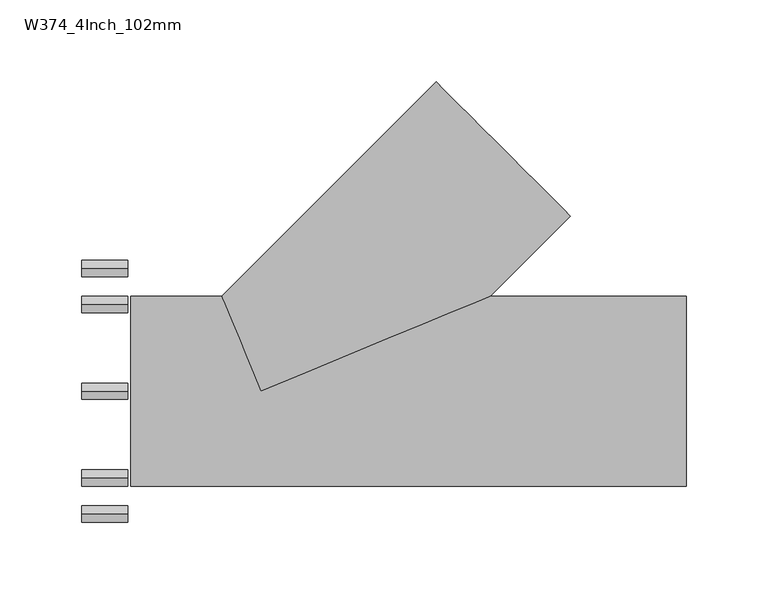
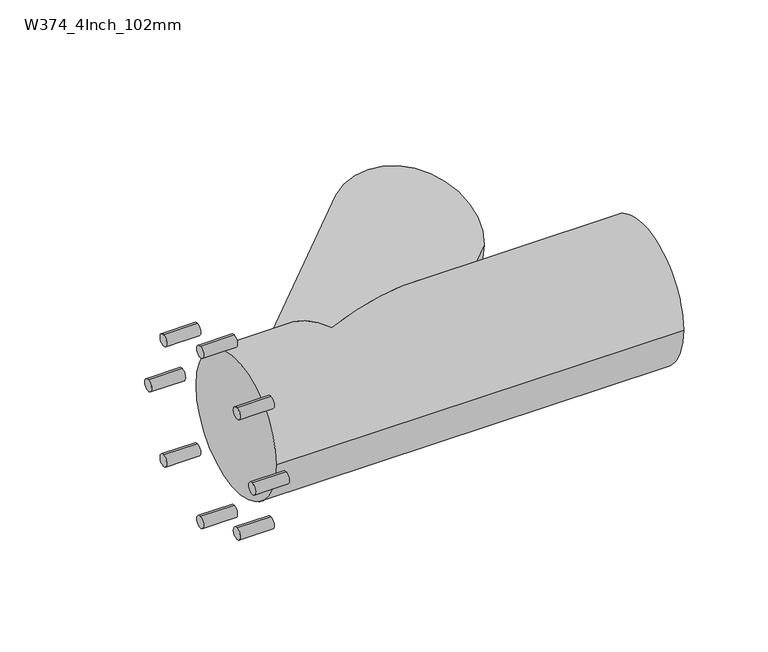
"""IFC4 building model written with IfcOpenShell, lengths in millimetres: pipe fitting geometry, Durapipe_PipeFitting_VulcatheneMechanical_SingleWye_W37 : W374_4Inch_102mm."""

from ifc_helpers import new_model, si_unit, point, frame, frame_2d, origin, place, context, project, spatial, circle_curve, ellipse_curve, trimmed, segment, composite_curve, outline, extrude, source, transform, mapped, element, save
from ifc_brep_helpers import plane_surface, cylinder_surface, advanced_brep


def w374_4inch_102mm_cdc88c89(model_context):
    return source(origin(), model_context, "Body", "SolidModel", [
        extrude(outline(composite_curve([segment(trimmed(circle_curve(frame_2d((-75.0, 0.0)), 5.0), [point((-75.0, -5.0))], [point((-75.0, 5.0))], False, "CARTESIAN"), True, "CONTINUOUS"), segment(trimmed(circle_curve(frame_2d((-75.0, 0.0)), 5.0), [point((-75.0, 5.0))], [point((-75.0, -5.0))], False, "CARTESIAN"), True, "CONTINUOUS")], self_intersect=False)), frame((-109.5, 0.0, 0.0), z_axis=(1.0, 0.0, 0.0), x_axis=(0.0, 1.0, 0.0)), (0.0, 0.0, 1.0), 28.2),
        extrude(outline(composite_curve([segment(trimmed(circle_curve(frame_2d((-53.0330086, 53.0330086)), 5.0), [point((-53.0330086, 48.0330086))], [point((-53.0330086, 58.0330086))], False, "CARTESIAN"), True, "CONTINUOUS"), segment(trimmed(circle_curve(frame_2d((-53.0330086, 53.0330086)), 5.0), [point((-53.0330086, 58.0330086))], [point((-53.0330086, 48.0330086))], False, "CARTESIAN"), True, "CONTINUOUS")], self_intersect=False)), frame((-109.5, 0.0, 0.0), z_axis=(1.0, 0.0, 0.0), x_axis=(0.0, 1.0, 0.0)), (0.0, 0.0, 1.0), 28.2),
        extrude(outline(composite_curve([segment(trimmed(circle_curve(frame_2d((0.0, 75.0)), 5.0), [point((0.0, 70.0))], [point((0.0, 80.0))], False, "CARTESIAN"), True, "CONTINUOUS"), segment(trimmed(circle_curve(frame_2d((0.0, 75.0)), 5.0), [point((0.0, 80.0))], [point((0.0, 70.0))], False, "CARTESIAN"), True, "CONTINUOUS")], self_intersect=False)), frame((-109.5, 0.0, 0.0), z_axis=(1.0, 0.0, 0.0), x_axis=(0.0, 1.0, 0.0)), (0.0, 0.0, 1.0), 28.2),
        extrude(outline(composite_curve([segment(trimmed(circle_curve(frame_2d((53.0330086, 53.0330086)), 5.0), [point((53.0330086, 48.0330086))], [point((53.0330086, 58.0330086))], False, "CARTESIAN"), True, "CONTINUOUS"), segment(trimmed(circle_curve(frame_2d((53.0330086, 53.0330086)), 5.0), [point((53.0330086, 58.0330086))], [point((53.0330086, 48.0330086))], False, "CARTESIAN"), True, "CONTINUOUS")], self_intersect=False)), frame((-109.5, 0.0, 0.0), z_axis=(1.0, 0.0, 0.0), x_axis=(0.0, 1.0, 0.0)), (0.0, 0.0, 1.0), 28.2),
        extrude(outline(composite_curve([segment(trimmed(circle_curve(frame_2d((75.0, 0.0)), 5.0), [point((75.0, -5.0))], [point((75.0, 5.0))], False, "CARTESIAN"), True, "CONTINUOUS"), segment(trimmed(circle_curve(frame_2d((75.0, 0.0)), 5.0), [point((75.0, 5.0))], [point((75.0, -5.0))], False, "CARTESIAN"), True, "CONTINUOUS")], self_intersect=False)), frame((-109.5, 0.0, 0.0), z_axis=(1.0, 0.0, 0.0), x_axis=(0.0, 1.0, 0.0)), (0.0, 0.0, 1.0), 28.2),
        extrude(outline(composite_curve([segment(trimmed(circle_curve(frame_2d((53.0330086, -53.0330086)), 5.0), [point((53.0330086, -58.0330086))], [point((53.0330086, -48.0330086))], False, "CARTESIAN"), True, "CONTINUOUS"), segment(trimmed(circle_curve(frame_2d((53.0330086, -53.0330086)), 5.0), [point((53.0330086, -48.0330086))], [point((53.0330086, -58.0330086))], False, "CARTESIAN"), True, "CONTINUOUS")], self_intersect=False)), frame((-109.5, 0.0, 0.0), z_axis=(1.0, 0.0, 0.0), x_axis=(0.0, 1.0, 0.0)), (0.0, 0.0, 1.0), 28.2),
        extrude(outline(composite_curve([segment(trimmed(circle_curve(frame_2d((0.0, -75.0)), 5.0), [point((0.0, -80.0))], [point((0.0, -70.0))], False, "CARTESIAN"), True, "CONTINUOUS"), segment(trimmed(circle_curve(frame_2d((0.0, -75.0)), 5.0), [point((0.0, -70.0))], [point((0.0, -80.0))], False, "CARTESIAN"), True, "CONTINUOUS")], self_intersect=False)), frame((-109.5, 0.0, 0.0), z_axis=(1.0, 0.0, 0.0), x_axis=(0.0, 1.0, 0.0)), (0.0, 0.0, 1.0), 28.2),
        extrude(outline(composite_curve([segment(trimmed(circle_curve(frame_2d((-53.0330086, -53.0330086)), 5.0), [point((-53.0330086, -58.0330086))], [point((-53.0330086, -48.0330086))], False, "CARTESIAN"), True, "CONTINUOUS"), segment(trimmed(circle_curve(frame_2d((-53.0330086, -53.0330086)), 5.0), [point((-53.0330086, -48.0330086))], [point((-53.0330086, -58.0330086))], False, "CARTESIAN"), True, "CONTINUOUS")], self_intersect=False)), frame((-109.5, 0.0, 0.0), z_axis=(1.0, 0.0, 0.0), x_axis=(0.0, 1.0, 0.0)), (0.0, 0.0, 1.0), 28.2),
        advanced_brep(
        [(-79.5, 58.0, 0.0), (-79.5, -58.0, 0.0), (259.9, 58.0, 0.0), (259.9, -58.0, 0.0), (140.0243866, 58.0, 0.0), (0.0, 0.0, 58.0), (-24.0243866, 58.0, 0.0), (0.0, 0.0, -58.0), (107.0559667, 189.0803533, 0.0), (189.0803533, 107.0559667, 0.0)],
        [
            (0, 1, circle_curve(frame((-79.5, 0.0, 0.0), z_axis=(-1.0, 0.0, 0.0), x_axis=(0.0, -1.0, 0.0)), 58.0)),
            (1, 0, circle_curve(frame((-79.5, 0.0, 0.0), z_axis=(-1.0, 0.0, 0.0), x_axis=(0.0, -1.0, 0.0)), 58.0)),
            (2, 3, circle_curve(frame((259.9, 0.0, 0.0), z_axis=(1.0, 0.0, 0.0), x_axis=(0.0, -1.0, 0.0)), 58.0)),
            (3, 2, circle_curve(frame((259.9, 0.0, 0.0), z_axis=(1.0, 0.0, 0.0), x_axis=(0.0, -1.0, 0.0)), 58.0)),
            (1, 3),
            (2, 4),
            (4, 5, ellipse_curve(frame((0.0, 0.0, 0.0), z_axis=(0.38268343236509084, -0.9238795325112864, 0.0), x_axis=(-0.9238795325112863, -0.3826834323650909, 0.0)), 151.5613039, 58.0)),
            (5, 6, ellipse_curve(frame((0.0, 0.0, 0.0), z_axis=(-0.9238795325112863, -0.38268343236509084, 0.0), x_axis=(-0.38268343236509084, 0.9238795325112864, 0.0)), 62.7787476, 58.0)),
            (6, 0),
            (6, 7, ellipse_curve(frame((0.0, 0.0, 0.0), z_axis=(-0.9238795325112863, -0.38268343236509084, 0.0), x_axis=(-0.38268343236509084, 0.9238795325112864, 0.0)), 62.7787476, 58.0)),
            (7, 4, ellipse_curve(frame((0.0, 0.0, 0.0), z_axis=(0.38268343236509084, -0.9238795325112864, 0.0), x_axis=(-0.9238795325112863, -0.3826834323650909, 0.0)), 151.5613039, 58.0)),
            (8, 9, circle_curve(frame((148.06816, 148.06816, 0.0), z_axis=(0.7071067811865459, 0.7071067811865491, 0.0), x_axis=(0.7071067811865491, -0.7071067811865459, 0.0)), 58.0)),
            (9, 8, circle_curve(frame((148.06816, 148.06816, 0.0), z_axis=(0.7071067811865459, 0.7071067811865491, 0.0), x_axis=(0.7071067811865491, -0.7071067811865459, 0.0)), 58.0)),
            (8, 6),
            (4, 9),
        ],
        [
            plane_surface(frame((-79.5, 0.0, 0.0), z_axis=(-1.0, 0.0, 0.0), x_axis=(0.0, 0.0, 1.0))),
            plane_surface(frame((259.9, 0.0, 0.0), z_axis=(1.0, 0.0, 0.0), x_axis=(0.0, 0.0, 1.0))),
            cylinder_surface(frame((-79.5, 0.0, 0.0), z_axis=(-1.0, 0.0, 0.0), x_axis=(0.0, -1.0, 0.0)), 58.0),
            plane_surface(frame((148.06816, 148.06816, 0.0), z_axis=(0.7071067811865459, 0.7071067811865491, 0.0), x_axis=(0.0, 0.0, 1.0))),
            cylinder_surface(frame((0.0, 0.0, 0.0), z_axis=(-0.7071067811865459, -0.7071067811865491, 0.0), x_axis=(0.7071067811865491, -0.7071067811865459, 0.0)), 58.0),
        ],
        [
            (0, [[1, 2]]),
            (1, [[3, 4]]),
            (2, [[5, -3, 6, 7, 8, 9, -2]]),
            (2, [[-9, 10, 11, -6, -4, -5, -1]]),
            (3, [[12, 13]]),
            (4, [[14, -8, -7, 15, -12]]),
            (4, [[-15, -11, -10, -14, -13]]),
        ],
    ),
    ])


if __name__ == "__main__":
    model = new_model("IFC4")
    model_context = context("Model", 3, world=origin())
    ifc_project = project(units=[si_unit("LENGTHUNIT", "METRE", prefix="MILLI")], contexts=[model_context])
    site = spatial("IfcSite", under=ifc_project)
    building = spatial("IfcBuilding", under=site)
    placement = place(None, origin())
    w374_4inch_102mm_shape = w374_4inch_102mm_cdc88c89(model_context)
    element("IfcPipeFitting", 1, ObjectType="Durapipe_PipeFitting_VulcatheneMechanical_SingleWye_W37 : W374_4Inch_102mm", at=placement, inside=building, context=model_context, shape_type="MappedRepresentation", body=[
        mapped(w374_4inch_102mm_shape, transform((0.0, 0.0, 0.0), x_axis=(1.0, 0.0, 0.0), y_axis=(0.0, 1.0, 0.0), z_axis=(0.0, 0.0, 1.0))),
    ])
    save(model, "model.ifc")
